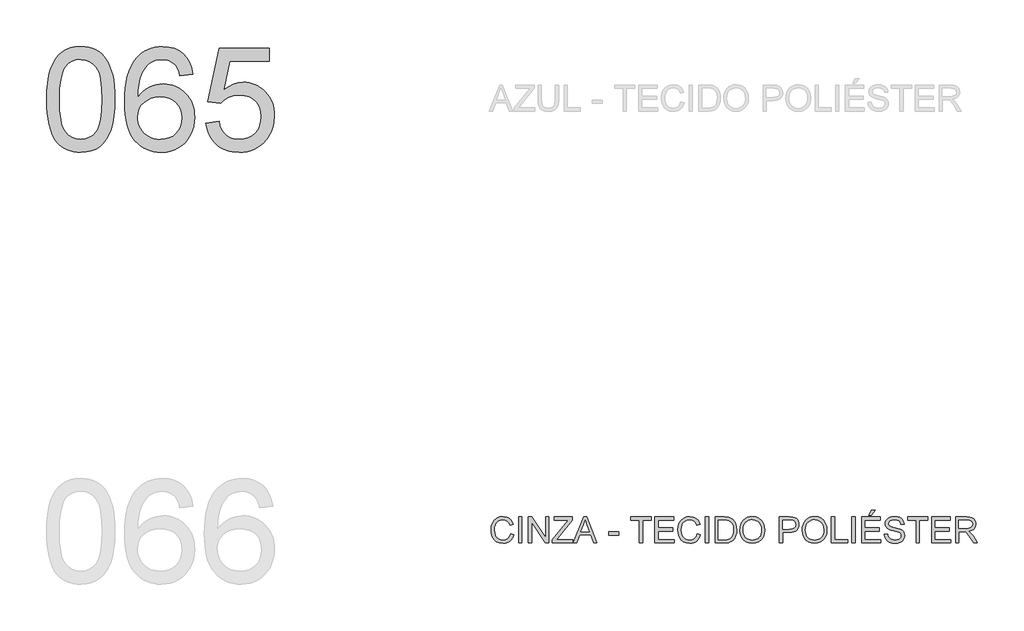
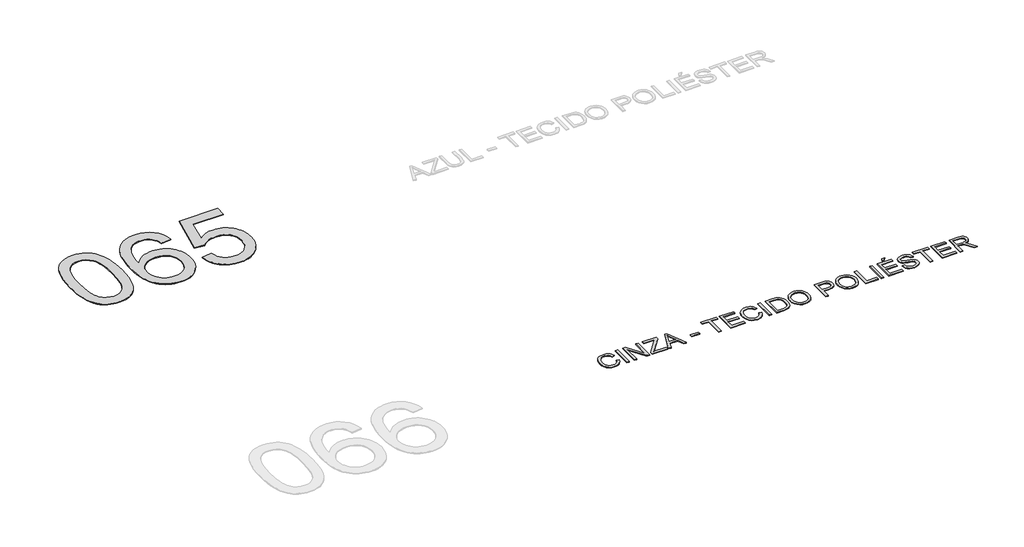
# One storey, part 11 of 35: 2 proxies.
"""IFC4 building model written with IfcOpenShell, lengths in millimetres."""

from ifc_helpers import new_model, si_unit, origin, origin_with_axes, place, context, project, spatial, polyline, outline, extrude, element, save

model = new_model("IFC4")

# Units and contexts
model_context = context("Model", 3, world=origin())
ifc_project = project(units=[si_unit("LENGTHUNIT", "METRE", prefix="MILLI")], contexts=[model_context])

# Site, building, storey
site = spatial("IfcSite", under=ifc_project)
building = spatial("IfcBuilding", under=site)
storey = spatial("IfcBuildingStorey", under=building, Name="Marelli - Linha YOU - Planta Baixa", Elevation=0.0)

# Proxies
placement = place(None, origin())
element("IfcBuildingElementProxy", 1, Name="1200mm Arial", ObjectType="1200mm Arial", at=placement, inside=storey, context=model_context, shape_type="SweptSolid", body=[
    extrude(outline(polyline([(-25275.30917, -84895.792664), (-25272.540858, -84794.4319773), (-25264.2359219, -84702.8385576), (-25250.3943618, -84621.0124048), (-25231.0161777, -84548.953519), (-25206.1841431, -84486.073289), (-25175.9810313, -84431.7831035), (-25140.4068423, -84386.0829627), (-25099.4615763, -84348.9728664), (-25053.0072773, -84320.2596767), (-25000.9059898, -84299.7502555), (-24943.1577136, -84287.4446027), (-24879.7624488, -84283.3427185), (-24832.1217304, -84285.7707396), (-24786.9090332, -84293.0548031), (-24744.1243571, -84305.194909), (-24703.7677023, -84322.1910572), (-24666.8139558, -84343.7581391), (-24634.2380052, -84369.6110463), (-24606.0398502, -84399.7497788), (-24582.2194911, -84434.1743365), (-24561.5813111, -84472.7467637), (-24542.929694, -84515.3291046), (-24511.586148, -84612.5235278), (-24499.611589, -84669.6831928), (-24491.0583327, -84735.9479371), (-24485.9263788, -84811.3177609), (-24484.2157275, -84895.792664), (-24486.9564484, -84996.5095573), (-24495.178611, -85087.6431245), (-24508.8822153, -85169.1933658), (-24528.0672614, -85241.1602811), (-24552.706158, -85304.0681023), (-24582.771314, -85358.4410612), (-24618.2627295, -85404.2791578), (-24659.1804044, -85441.5823921), (-24705.6898857, -85470.4887199), (-24757.9567202, -85491.1360968), (-24815.9809078, -85503.524523), (-24879.7624488, -85507.6539984), (-24922.4367602, -85505.8605737), (-24962.7566269, -85500.4802995), (-25000.7220488, -85491.5131759), (-25036.3330259, -85478.9592028), (-25069.5895583, -85462.8183803), (-25100.4916459, -85443.0907083), (-25129.0392887, -85419.7761868), (-25155.2324867, -85392.8748159), (-25183.3754594, -85350.2786794), (-25207.7660357, -85302.0999336), (-25228.4042156, -85248.3385785), (-25245.2899992, -85188.9946142), (-25258.4233864, -85124.0680406), (-25267.8043773, -85053.5588577), (-25273.4329718, -84977.4670655), (-25275.30917, -84895.792664)]), holes=[polyline([(-25124.6247047, -84895.4983584), (-25120.2101208, -85026.4919399), (-25106.966369, -85132.5247279), (-25097.0335551, -85176.1808245), (-25084.8934493, -85213.5967226), (-25070.5460515, -85244.7724225), (-25053.9913617, -85269.7079239), (-25016.614551, -85307.884878), (-24975.1174619, -85335.1541309), (-24929.5000945, -85351.5156826), (-24879.7624488, -85356.9695332), (-24830.024803, -85351.4972885), (-24784.4074356, -85335.0805545), (-24742.9103465, -85307.7193311), (-24705.5335358, -85269.4136183), (-24688.9788461, -85244.418336), (-24674.6314482, -85213.2104465), (-24662.4913424, -85175.7899498), (-24652.5585285, -85132.1568459), (-24639.3147767, -85026.2528166), (-24634.9001928, -84895.4983584), (-24639.1676239, -84767.9720648), (-24651.9699173, -84663.8062779), (-24661.5716374, -84620.4835744), (-24673.3070731, -84583.0009976), (-24687.1762243, -84551.3585475), (-24703.1790911, -84525.5562241), (-24739.9305024, -84485.5122689), (-24781.905838, -84456.9094438), (-24829.105098, -84439.7477487), (-24881.5282823, -84434.0271837), (-24931.0084107, -84439.067167), (-24975.8532259, -84454.187117), (-25016.062728, -84479.3870337), (-25051.6369169, -84514.666917), (-25068.7434297, -84543.2145599), (-25083.5690741, -84577.2068562), (-25096.1138501, -84616.6438061), (-25106.3777578, -84661.5254095), (-25120.062968, -84767.6225769), (-25124.6247047, -84895.4983584)])]), origin_with_axes(), (0.0, 0.0, 1.0), 10.0),
    extrude(outline(polyline([(-23580.1089362, -84603.5472071), (-23730.7934014, -84622.3827652), (-23741.8666495, -84582.0812927), (-23755.0736131, -84547.7027202), (-23770.4142923, -84519.2470479), (-23787.8886871, -84496.7142757), (-23820.2806967, -84469.2886729), (-23856.2411618, -84449.6989567), (-23895.7700822, -84437.9451269), (-23938.8674579, -84434.0271837), (-23974.4048586, -84436.3080521), (-24008.9121898, -84443.1506572), (-24042.3894513, -84454.554999), (-24074.8366433, -84470.5210776), (-24104.4419469, -84496.6315022), (-24131.4536824, -84528.1681863), (-24155.8718498, -84565.1311297), (-24177.6964492, -84607.5203326), (-24195.7686522, -84658.1316981), (-24208.9296306, -84719.7611293), (-24217.1793843, -84792.4086263), (-24220.5179134, -84876.0741891), (-24191.7955266, -84838.2099347), (-24160.0749016, -84805.5512106), (-24125.3560383, -84778.0980167), (-24087.6389367, -84755.8503531), (-24047.9352724, -84738.6610669), (-24007.2567208, -84726.3830053), (-23965.6032819, -84719.0161683), (-23922.9749557, -84716.560556), (-23886.0763916, -84718.2390176), (-23850.575779, -84723.2744024), (-23816.4731181, -84731.6667104), (-23783.7684087, -84743.4159416), (-23752.4616509, -84758.5220961), (-23722.5528447, -84776.9851737), (-23694.0419901, -84798.8051745), (-23666.9290871, -84823.9820986), (-23642.1660303, -84851.81697), (-23620.7047144, -84881.6108131), (-23602.5451394, -84913.3636278), (-23587.6873053, -84947.0754142), (-23576.1312121, -84982.7461721), (-23567.8768599, -85020.3759017), (-23562.9242485, -85059.9646029), (-23561.273378, -85101.5122757), (-23564.3819809, -85156.4462547), (-23573.7077895, -85209.4120649), (-23589.2508038, -85260.4097065), (-23611.0110238, -85309.4391794), (-23638.2158973, -85354.6702707), (-23670.0928722, -85394.2727675), (-23706.6419484, -85428.2466698), (-23747.863126, -85456.5919775), (-23792.8734881, -85478.9316116), (-23840.790118, -85494.8884932), (-23891.6130156, -85504.4626221), (-23945.342181, -85507.6539984), (-23991.3435252, -85505.5386769), (-24035.1697672, -85499.1927125), (-24076.8209068, -85488.6161052), (-24116.2969442, -85473.8088549), (-24153.5978792, -85454.7709616), (-24188.723712, -85431.5024254), (-24221.6744424, -85404.0032463), (-24252.4500706, -85372.2734242), (-24280.2826428, -85335.6875598), (-24304.4042053, -85293.6202536), (-24324.8147583, -85246.0715057), (-24341.5143016, -85193.0413161), (-24354.5028353, -85134.5296848), (-24363.7803594, -85070.5366118), (-24369.3468738, -85001.062097), (-24371.2023786, -84926.1061404), (-24369.1422394, -84842.1784618), (-24362.9618219, -84764.1828803), (-24352.6611261, -84692.1193959), (-24338.2401519, -84625.9880088), (-24319.6988993, -84565.7887188), (-24297.0373684, -84511.521526), (-24270.2555591, -84463.1864303), (-24239.3534716, -84420.7834319), (-24209.3388993, -84388.5707647), (-24176.8319265, -84360.6531198), (-24141.8325532, -84337.0304971), (-24104.3407793, -84317.7028968), (-24064.356605, -84302.6703188), (-24021.8800301, -84291.9327631), (-23976.9110547, -84285.4902296), (-23929.4496788, -84283.3427185), (-23860.0487404, -84288.6586133), (-23797.2328897, -84304.6062978), (-23741.0021268, -84331.1857719), (-23691.3564515, -84368.3970358), (-23649.6386333, -84414.9892904), (-23617.1914413, -84469.7117372), (-23594.0148756, -84532.5643761), (-23580.1089362, -84603.5472071)]), holes=[polyline([(-24220.5179134, -85099.157831), (-24218.3382126, -85132.9202011), (-24211.7991101, -85165.9284131), (-24200.900606, -85198.182467), (-24185.6427003, -85229.6823629), (-24166.7703539, -85258.9473756), (-24145.028528, -85284.4967801), (-24120.4172225, -85306.3305766), (-24092.9364375, -85324.4487648), (-24062.7609168, -85338.676601), (-24030.0654045, -85348.8393411), (-23994.8499005, -85354.9369852), (-23957.1144049, -85356.9695332), (-23904.7372058, -85352.7572843), (-23857.6759016, -85340.1205378), (-23815.9304922, -85319.0592936), (-23779.5009776, -85289.5735517), (-23749.9508563, -85252.8589286), (-23728.8436268, -85210.1110407), (-23716.1792892, -85161.3298882), (-23711.9578433, -85106.5154709), (-23716.1241069, -85053.8439662), (-23728.6228976, -85007.0769676), (-23749.4542156, -84966.214475), (-23778.6180608, -84931.2564884), (-23815.15794, -84903.2514715), (-23858.1173599, -84883.247888), (-23907.4963208, -84871.2457379), (-23963.2948224, -84867.2450212), (-24014.9730456, -84871.2457379), (-24062.5861729, -84883.247888), (-24106.134204, -84903.2514715), (-24145.6171392, -84931.2564884), (-24178.3862279, -84965.7546225), (-24201.7927198, -85005.2375576), (-24215.836615, -85049.7052938), (-24220.5179134, -85099.157831)])]), origin_with_axes(), (0.0, 0.0, 1.0), 10.0),
    extrude(outline(polyline([(-23429.424471, -85168.6139517), (-23278.7400057, -85149.7783935), (-23267.4828167, -85198.2192552), (-23251.0752797, -85240.2405761), (-23229.5173948, -85275.8423562), (-23202.8091619, -85305.0245955), (-23171.0057635, -85327.7505057), (-23134.1623816, -85343.9832988), (-23092.2790165, -85353.7229746), (-23045.355668, -85356.9695332), (-22987.9660768, -85352.4537817), (-22937.3455142, -85338.9065272), (-22893.4939804, -85316.3277698), (-22856.4114753, -85284.7175093), (-22826.9257334, -85245.6392444), (-22805.8644891, -85200.6564734), (-22793.2277426, -85149.7691965), (-22789.0154938, -85092.9774135), (-22792.9610282, -85039.3034304), (-22804.7976314, -84991.5891356), (-22824.5253034, -84949.8345291), (-22852.1440441, -84914.039611), (-22887.7458242, -84885.3264213), (-22931.4226141, -84864.817), (-22983.1744138, -84852.5113473), (-23043.0012232, -84848.4094631), (-23081.2885419, -84850.0465379), (-23116.0993757, -84854.9577626), (-23147.4337246, -84863.143137), (-23175.2915887, -84874.6026611), (-23222.5644251, -84904.6954083), (-23259.9044476, -84942.5872538), (-23410.5889128, -84923.7516957), (-23278.7400057, -84302.1782766), (-22694.837703, -84302.1782766), (-22694.837703, -84452.8627418), (-23156.8974889, -84452.8627418), (-23221.3504145, -84784.8394543), (-23168.1730721, -84746.7268796), (-23113.7081427, -84719.503612), (-23057.9556263, -84703.1696514), (-23000.915523, -84697.7249978), (-22963.4766322, -84699.4126565), (-22927.532262, -84704.4756324), (-22893.0824124, -84712.9139257), (-22860.1270834, -84724.7275363), (-22828.6662751, -84739.9164642), (-22798.6999873, -84758.4807093), (-22770.2282201, -84780.4202718), (-22743.2509736, -84805.7351516), (-22718.6603615, -84833.7033803), (-22697.3484976, -84863.6029895), (-22679.3153821, -84895.4339791), (-22664.5610148, -84929.1963492), (-22653.0853958, -84964.8900998), (-22644.8885251, -85002.5152308), (-22639.9704027, -85042.0717424), (-22638.3310285, -85083.5596344), (-22644.2355346, -85161.6241938), (-22651.6161671, -85198.6147284), (-22661.9490526, -85234.2440996), (-22675.2341912, -85268.5123075), (-22691.4715827, -85301.4193519), (-22710.6612273, -85332.965233), (-22732.8031249, -85363.1499507), (-22762.8039016, -85397.0180869), (-22795.4166405, -85426.3704716), (-22830.6413415, -85451.2071048), (-22868.4780047, -85471.5279865), (-22908.9266301, -85487.3331167), (-22951.9872176, -85498.6224954), (-22997.6597673, -85505.3961227), (-23045.9442792, -85507.6539984), (-23123.7053359, -85501.8506599), (-23159.7646692, -85494.5964869), (-23193.9432059, -85484.4406445), (-23226.2409458, -85471.383133), (-23256.657889, -85455.4239522), (-23285.1940355, -85436.5631021), (-23311.8493853, -85414.8005828), (-23336.1870786, -85390.6422321), (-23357.7702554, -85364.5938875), (-23376.5989157, -85336.6555493), (-23392.6730597, -85306.8272173), (-23405.9926871, -85275.1088915), (-23416.5577982, -85241.500572), (-23429.424471, -85168.6139517)])), origin_with_axes(), (0.0, 0.0, 1.0), 10.0),
])
element("IfcBuildingElementProxy", 2, Name="300mm Arial", ObjectType="300mm Arial", at=placement, inside=storey, context=model_context, shape_type="SweptSolid", body=[
    extrude(outline(polyline([(-19903.7272413, -89923.4390831), (-19866.056125, -89933.1511677), (-19873.5103339, -89956.5783531), (-19883.4385492, -89977.0486868), (-19895.840771, -89994.5621691), (-19910.7169992, -90009.1187997), (-19927.7315414, -90020.5622291), (-19946.5487055, -90028.7361071), (-19967.1684913, -90033.640434), (-19989.5908989, -90035.2752096), (-20033.2860829, -90030.3271968), (-20067.9865521, -90015.4831583), (-20094.5844204, -89991.2581289), (-20113.9718015, -89958.1671434), (-20125.8084047, -89919.2636224), (-20129.7539391, -89877.6009865), (-20125.2933699, -89833.6574822), (-20111.9116623, -89795.7104543), (-20090.3077922, -89764.9647166), (-20061.1807352, -89742.6250824), (-20026.6366159, -89729.0226457), (-19988.7815585, -89724.4885001), (-19947.4776075, -89730.3562179), (-19929.5088713, -89737.6908652), (-19913.3289613, -89747.9593714), (-19899.204592, -89760.8904235), (-19887.4024777, -89776.2127086), (-19870.7650145, -89814.0309777), (-19908.4361308, -89823.0072984), (-19921.4959416, -89795.5357104), (-19939.3382184, -89776.6909552), (-19962.1836903, -89765.7924511), (-19990.2530865, -89762.1596164), (-20022.608308, -89766.1879242), (-20049.1877822, -89778.2728478), (-20069.3569125, -89797.1451941), (-20082.4811027, -89821.5357704), (-20089.6823928, -89849.1085259), (-20092.0828228, -89877.5274101), (-20089.2409344, -89912.3290468), (-20080.7152691, -89942.421794), (-20066.1839303, -89966.6560205), (-20045.3250212, -89983.8820949), (-20020.3182426, -89994.1735937), (-19993.3432953, -89997.6040933), (-19961.8985818, -89992.931992), (-19935.6961866, -89978.9156879), (-19915.9133324, -89955.7023341), (-19903.7272413, -89923.4390831)])), origin_with_axes(), (0.0, 0.0, 1.0), 10.0),
    extrude(outline(polyline([(-19809.5494505, -90030.5663201), (-19809.5494505, -89729.1973896), (-19771.8783342, -89729.1973896), (-19771.8783342, -90030.5663201), (-19809.5494505, -90030.5663201)])), origin_with_axes(), (0.0, 0.0, 1.0), 10.0),
    extrude(outline(polyline([(-19696.5361016, -90030.5663201), (-19696.5361016, -89729.1973896), (-19656.2162349, -89729.1973896), (-19498.762741, -89967.9528045), (-19498.762741, -89729.1973896), (-19461.0916247, -89729.1973896), (-19461.0916247, -90030.5663201), (-19501.4114913, -90030.5663201), (-19658.8649853, -89791.7373288), (-19658.8649853, -90030.5663201), (-19696.5361016, -90030.5663201)])), origin_with_axes(), (0.0, 0.0, 1.0), 10.0),
    extrude(outline(polyline([(-19418.7116188, -90030.5663201), (-19418.7116188, -89991.4972522), (-19264.5690628, -89802.7737887), (-19235.285656, -89766.8685059), (-19399.8760607, -89766.8685059), (-19399.8760607, -89729.1973896), (-19187.9760314, -89729.1973896), (-19187.9760314, -89766.8685059), (-19356.6867144, -89973.397458), (-19372.5792166, -89992.8952038), (-19183.2671419, -89992.8952038), (-19183.2671419, -90030.5663201), (-19418.7116188, -90030.5663201)])), origin_with_axes(), (0.0, 0.0, 1.0), 10.0),
    extrude(outline(polyline([(-19175.9830784, -90030.5663201), (-19055.685666, -89729.1973896), (-19023.606356, -89729.1973896), (-18903.3089436, -90030.5663201), (-18943.1137755, -90030.5663201), (-18977.6211066, -89936.3885293), (-19101.7444918, -89936.3885293), (-19136.1782465, -90030.5663201), (-19175.9830784, -90030.5663201)]), holes=[polyline([(-19087.9121288, -89898.717413), (-18991.3798932, -89898.717413), (-19018.5295845, -89824.6259792), (-19039.646011, -89766.8685059), (-19058.4079927, -89818.1512561), (-19087.9121288, -89898.717413)])]), origin_with_axes(), (0.0, 0.0, 1.0), 10.0),
    extrude(outline(polyline([(-18768.8848625, -89941.0974188), (-18768.8848625, -89903.4263025), (-18651.1626241, -89903.4263025), (-18651.1626241, -89941.0974188), (-18768.8848625, -89941.0974188)])), origin_with_axes(), (0.0, 0.0, 1.0), 10.0),
    extrude(outline(polyline([(-18411.0092576, -90030.5663201), (-18411.0092576, -89766.8685059), (-18509.8959379, -89766.8685059), (-18509.8959379, -89729.1973896), (-18274.451461, -89729.1973896), (-18274.451461, -89766.8685059), (-18373.3381413, -89766.8685059), (-18373.3381413, -90030.5663201), (-18411.0092576, -90030.5663201)])), origin_with_axes(), (0.0, 0.0, 1.0), 10.0),
    extrude(outline(polyline([(-18232.0714552, -90030.5663201), (-18232.0714552, -89729.1973896), (-18015.4625364, -89729.1973896), (-18015.4625364, -89766.8685059), (-18194.4003389, -89766.8685059), (-18194.4003389, -89856.3374072), (-18024.8803155, -89856.3374072), (-18024.8803155, -89894.0085235), (-18194.4003389, -89894.0085235), (-18194.4003389, -89992.8952038), (-18010.7536469, -89992.8952038), (-18010.7536469, -90030.5663201), (-18232.0714552, -90030.5663201)])), origin_with_axes(), (0.0, 0.0, 1.0), 10.0),
    extrude(outline(polyline([(-17742.3469432, -89923.4390831), (-17704.6758269, -89933.1511677), (-17712.1300358, -89956.5783531), (-17722.0582512, -89977.0486868), (-17734.4604729, -89994.5621691), (-17749.3367011, -90009.1187997), (-17766.3512434, -90020.5622291), (-17785.1684074, -90028.7361071), (-17805.7881933, -90033.640434), (-17828.2106009, -90035.2752096), (-17871.9057849, -90030.3271968), (-17906.606254, -90015.4831583), (-17933.2041223, -89991.2581289), (-17952.5915034, -89958.1671434), (-17964.4281066, -89919.2636224), (-17968.373641, -89877.6009865), (-17963.9130718, -89833.6574822), (-17950.5313643, -89795.7104543), (-17928.9274941, -89764.9647166), (-17899.8004371, -89742.6250824), (-17865.2563178, -89729.0226457), (-17827.4012605, -89724.4885001), (-17786.0973095, -89730.3562179), (-17768.1285733, -89737.6908652), (-17751.9486633, -89747.9593714), (-17737.8242939, -89760.8904235), (-17726.0221797, -89776.2127086), (-17709.3847164, -89814.0309777), (-17747.0558327, -89823.0072984), (-17760.1156436, -89795.5357104), (-17777.9579203, -89776.6909552), (-17800.8033922, -89765.7924511), (-17828.8727885, -89762.1596164), (-17861.2280099, -89766.1879242), (-17887.8074841, -89778.2728478), (-17907.9766145, -89797.1451941), (-17921.1008047, -89821.5357704), (-17928.3020947, -89849.1085259), (-17930.7025247, -89877.5274101), (-17927.8606363, -89912.3290468), (-17919.3349711, -89942.421794), (-17904.8036323, -89966.6560205), (-17883.9447231, -89983.8820949), (-17858.9379445, -89994.1735937), (-17831.9629972, -89997.6040933), (-17800.5182837, -89992.931992), (-17774.3158886, -89978.9156879), (-17754.5330343, -89955.7023341), (-17742.3469432, -89923.4390831)])), origin_with_axes(), (0.0, 0.0, 1.0), 10.0),
    extrude(outline(polyline([(-17648.1691524, -90030.5663201), (-17648.1691524, -89729.1973896), (-17610.4980361, -89729.1973896), (-17610.4980361, -90030.5663201), (-17648.1691524, -90030.5663201)])), origin_with_axes(), (0.0, 0.0, 1.0), 10.0),
    extrude(outline(polyline([(-17535.1558035, -90030.5663201), (-17535.1558035, -89729.1973896), (-17431.1923517, -89729.1973896), (-17377.408004, -89733.5383972), (-17353.3853097, -89741.9077126), (-17333.1150118, -89755.0962821), (-17312.2744967, -89778.0521186), (-17297.4304582, -89806.5997614), (-17288.5461081, -89840.1873876), (-17285.584658, -89878.2631741), (-17287.5896149, -89910.6091985), (-17293.6044855, -89939.0740679), (-17302.7647472, -89963.3082943), (-17314.2058772, -89982.9623899), (-17327.3760526, -89998.477813), (-17341.7234505, -90010.2960221), (-17358.1953668, -90019.0608107), (-17377.7390978, -90025.4159721), (-17426.1891565, -90030.5663201), (-17535.1558035, -90030.5663201)]), holes=[polyline([(-17497.4846872, -89992.8952038), (-17430.8244697, -89992.8952038), (-17403.2517141, -89991.5340404), (-17382.3376227, -89987.4505502), (-17366.5554851, -89980.8838566), (-17354.3785911, -89972.0730828), (-17341.2911891, -89955.7667134), (-17331.4595428, -89934.6594839), (-17325.3067164, -89908.6594239), (-17323.2557743, -89877.6745629), (-17327.2748851, -89836.6189322), (-17339.3322175, -89806.3054558), (-17357.1469031, -89785.4833349), (-17378.4380736, -89772.9017706), (-17400.1063231, -89768.3768221), (-17431.8545393, -89766.8685059), (-17497.4846872, -89766.8685059), (-17497.4846872, -89992.8952038)])]), origin_with_axes(), (0.0, 0.0, 1.0), 10.0),
    extrude(outline(polyline([(-17247.9135417, -89883.8549804), (-17245.4027471, -89848.5061192), (-17237.8703632, -89817.213157), (-17225.3163901, -89789.9760937), (-17207.7408278, -89766.7949295), (-17186.1967385, -89748.2858666), (-17161.7371843, -89735.0651074), (-17134.3621653, -89727.1326519), (-17104.0716816, -89724.4885001), (-17064.5427612, -89729.454907), (-17029.097331, -89744.3541278), (-16999.6667713, -89768.1376988), (-16978.1824628, -89799.7571563), (-16965.0490756, -89837.68579), (-16960.6712798, -89880.3968896), (-16965.2790018, -89923.6782064), (-16979.1021678, -89962.140269), (-17001.3774226, -89993.8149088), (-17031.3414111, -90016.733957), (-17066.4833387, -90030.6398965), (-17104.2924108, -90035.2752096), (-17144.4283364, -90030.1524528), (-17180.0761018, -90014.7841825), (-17209.433085, -89990.5591531), (-17230.6966643, -89958.8661192), (-17243.6093223, -89922.3998164), (-17247.9135417, -89883.8549804)]), holes=[polyline([(-17210.2424254, -89884.2228624), (-17208.3593294, -89909.1974513), (-17202.7100415, -89931.3669401), (-17193.2945617, -89950.7313286), (-17180.11289, -89967.2906169), (-17164.0893298, -89980.5527628), (-17146.1481848, -89990.0257242), (-17126.2894548, -89995.709501), (-17104.51314, -89997.6040933), (-17082.3643446, -89995.6911069), (-17062.2710899, -89989.9521478), (-17044.2333758, -89980.3872159), (-17028.2512024, -89966.9963113), (-17015.1660996, -89950.0875351), (-17005.8195977, -89929.9689885), (-17000.2116965, -89906.6406715), (-16998.3423962, -89880.102584), (-17001.5429695, -89846.7540812), (-17011.1446896, -89817.9305269), (-17026.899236, -89794.358488), (-17048.5582885, -89776.7645316), (-17074.6871072, -89765.8108452), (-17103.8509524, -89762.1596164), (-17124.8708099, -89763.9185522), (-17144.3731541, -89769.1953595), (-17162.3579852, -89777.9900385), (-17178.825303, -89790.302589), (-17192.570294, -89806.7262208), (-17202.3881448, -89827.8541437), (-17208.2788552, -89853.6863575), (-17210.2424254, -89884.2228624)])]), origin_with_axes(), (0.0, 0.0, 1.0), 10.0),
    extrude(outline(polyline([(-16791.1512565, -90030.5663201), (-16791.1512565, -89729.1973896), (-16679.4622827, -89729.1973896), (-16634.4335265, -89732.0668692), (-16614.3563666, -89737.4287493), (-16597.829268, -89746.1567496), (-16584.5211368, -89758.6463433), (-16574.1008793, -89775.2930036), (-16567.3686388, -89794.9287051), (-16565.1245586, -89816.3854225), (-16566.6397726, -89834.8852883), (-16571.1854145, -89851.9044291), (-16578.7614843, -89867.4428449), (-16589.3679821, -89881.5005356), (-16603.9292113, -89893.1531978), (-16623.3694755, -89901.476528), (-16647.6887747, -89906.470526), (-16676.8871088, -89908.1351921), (-16753.4801402, -89908.1351921), (-16753.4801402, -90030.5663201), (-16791.1512565, -90030.5663201)]), holes=[polyline([(-16753.4801402, -89870.4640758), (-16674.6798168, -89870.4640758), (-16641.2761316, -89867.005985), (-16619.2032119, -89856.6317127), (-16606.8975592, -89839.9850525), (-16602.7956749, -89817.7097977), (-16605.2144991, -89800.7872259), (-16612.4709714, -89786.5134045), (-16623.6637811, -89775.7712502), (-16637.8916173, -89769.4436799), (-16675.5627336, -89766.8685059), (-16753.4801402, -89766.8685059), (-16753.4801402, -89870.4640758)])]), origin_with_axes(), (0.0, 0.0, 1.0), 10.0),
    extrude(outline(polyline([(-16527.4534423, -89883.8549804), (-16524.9426477, -89848.5061192), (-16517.4102639, -89817.213157), (-16504.8562908, -89789.9760937), (-16487.2807285, -89766.7949295), (-16465.7366391, -89748.2858666), (-16441.277085, -89735.0651074), (-16413.902066, -89727.1326519), (-16383.6115822, -89724.4885001), (-16344.0826618, -89729.454907), (-16308.6372316, -89744.3541278), (-16279.206672, -89768.1376988), (-16257.7223635, -89799.7571563), (-16244.5889762, -89837.68579), (-16240.2111805, -89880.3968896), (-16244.8189025, -89923.6782064), (-16258.6420685, -89962.140269), (-16280.9173233, -89993.8149088), (-16310.8813118, -90016.733957), (-16346.0232394, -90030.6398965), (-16383.8323114, -90035.2752096), (-16423.9682371, -90030.1524528), (-16459.6160024, -90014.7841825), (-16488.9729856, -89990.5591531), (-16510.236565, -89958.8661192), (-16523.149223, -89922.3998164), (-16527.4534423, -89883.8549804)]), holes=[polyline([(-16489.782326, -89884.2228624), (-16487.8992301, -89909.1974513), (-16482.2499422, -89931.3669401), (-16472.8344624, -89950.7313286), (-16459.6527906, -89967.2906169), (-16443.6292305, -89980.5527628), (-16425.6880854, -89990.0257242), (-16405.8293555, -89995.709501), (-16384.0530406, -89997.6040933), (-16361.9042452, -89995.6911069), (-16341.8109905, -89989.9521478), (-16323.7732764, -89980.3872159), (-16307.791103, -89966.9963113), (-16294.7060003, -89950.0875351), (-16285.3594984, -89929.9689885), (-16279.7515972, -89906.6406715), (-16277.8822968, -89880.102584), (-16281.0828702, -89846.7540812), (-16290.6845902, -89817.9305269), (-16306.4391367, -89794.358488), (-16328.0981891, -89776.7645316), (-16354.2270079, -89765.8108452), (-16383.390853, -89762.1596164), (-16404.4107105, -89763.9185522), (-16423.9130548, -89769.1953595), (-16441.8978858, -89777.9900385), (-16458.3652036, -89790.302589), (-16472.1101947, -89806.7262208), (-16481.9280454, -89827.8541437), (-16487.8187559, -89853.6863575), (-16489.782326, -89884.2228624)])]), origin_with_axes(), (0.0, 0.0, 1.0), 10.0),
    extrude(outline(polyline([(-16188.4133956, -90030.5663201), (-16188.4133956, -89729.1973896), (-16150.7422793, -89729.1973896), (-16150.7422793, -89992.8952038), (-16000.057814, -89992.8952038), (-16000.057814, -90030.5663201), (-16188.4133956, -90030.5663201)])), origin_with_axes(), (0.0, 0.0, 1.0), 10.0),
    extrude(outline(polyline([(-15952.9689187, -90030.5663201), (-15952.9689187, -89729.1973896), (-15915.2978024, -89729.1973896), (-15915.2978024, -90030.5663201), (-15952.9689187, -90030.5663201)])), origin_with_axes(), (0.0, 0.0, 1.0), 10.0),
    extrude(outline(polyline([(-15839.9555697, -90030.5663201), (-15839.9555697, -89729.1973896), (-15623.346651, -89729.1973896), (-15623.346651, -89766.8685059), (-15802.2844534, -89766.8685059), (-15802.2844534, -89856.3374072), (-15632.7644301, -89856.3374072), (-15632.7644301, -89894.0085235), (-15802.2844534, -89894.0085235), (-15802.2844534, -89992.8952038), (-15618.6377614, -89992.8952038), (-15618.6377614, -90030.5663201), (-15839.9555697, -90030.5663201)])), origin_with_axes(), (0.0, 0.0, 1.0), 10.0),
    extrude(outline(polyline([(-15755.1955581, -89710.3618315), (-15726.9422208, -89653.855157), (-15679.8533254, -89653.855157), (-15726.9422208, -89710.3618315), (-15755.1955581, -89710.3618315)])), origin_with_axes(), (0.0, 0.0, 1.0), 10.0),
    extrude(outline(polyline([(-15576.2577556, -89926.9707502), (-15538.5866393, -89926.9707502), (-15534.2640259, -89947.8756446), (-15526.4465335, -89964.6786547), (-15514.2512453, -89978.0143771), (-15496.7952446, -89988.517408), (-15475.4580889, -89995.332422), (-15451.6193356, -89997.6040933), (-15430.6316678, -89995.884245), (-15412.2559622, -89990.7247), (-15397.3659384, -89982.5577197), (-15386.8353163, -89971.8155654), (-15380.5721253, -89959.4823216), (-15378.484395, -89946.5420724), (-15380.0478935, -89933.932917), (-15384.7383889, -89923.0344129), (-15394.2665326, -89913.7361955), (-15410.3429758, -89905.9279001), (-15465.1941813, -89891.5437141), (-15501.2006315, -89882.0247675), (-15524.2392415, -89872.9656733), (-15542.9920262, -89860.2921386), (-15556.2817633, -89844.9330653), (-15564.2004232, -89827.2195472), (-15566.8399765, -89807.4826782), (-15563.5750238, -89785.4189555), (-15553.7801657, -89764.845155), (-15537.7129196, -89747.4075484), (-15515.6308028, -89734.7524077), (-15489.124905, -89727.054477), (-15459.7863159, -89724.4885001), (-15428.0013115, -89727.1740386), (-15400.1894327, -89735.2306543), (-15377.3439608, -89748.4928003), (-15360.4581772, -89766.7949295), (-15349.7712053, -89788.9966079), (-15345.5221682, -89813.9574013), (-15383.1932845, -89813.9574013), (-15390.109466, -89791.4798114), (-15404.5304403, -89775.2562154), (-15427.0632125, -89765.4337661), (-15458.3147879, -89762.1596164), (-15490.3021274, -89765.3969779), (-15512.2462884, -89775.1090626), (-15524.9382173, -89789.4012781), (-15529.1688602, -89806.3790322), (-15526.170622, -89820.8551887), (-15517.1759072, -89832.4986539), (-15495.9123279, -89842.9097143), (-15455.6660376, -89853.541504), (-15414.1321603, -89863.6398648), (-15389.0058201, -89872.4506385), (-15367.5307086, -89886.1174547), (-15352.5487143, -89902.9848441), (-15343.7471376, -89922.868866), (-15340.8132787, -89945.5855792), (-15344.188596, -89968.8081301), (-15354.3145479, -89990.6511236), (-15370.7772672, -90009.4498935), (-15393.1628866, -90023.539774), (-15420.0826516, -90032.3413507), (-15450.1478077, -90035.2752096), (-15487.0555688, -90032.1114244), (-15517.4334246, -90022.620069), (-15541.6308628, -90006.764355), (-15559.9973714, -89984.5074943), (-15571.7879894, -89957.3945912), (-15576.2577556, -89926.9707502)])), origin_with_axes(), (0.0, 0.0, 1.0), 10.0),
    extrude(outline(polyline([(-15208.9643716, -90030.5663201), (-15208.9643716, -89766.8685059), (-15307.8510519, -89766.8685059), (-15307.8510519, -89729.1973896), (-15072.406575, -89729.1973896), (-15072.406575, -89766.8685059), (-15171.2932553, -89766.8685059), (-15171.2932553, -90030.5663201), (-15208.9643716, -90030.5663201)])), origin_with_axes(), (0.0, 0.0, 1.0), 10.0),
    extrude(outline(polyline([(-15030.0265692, -90030.5663201), (-15030.0265692, -89729.1973896), (-14813.4176504, -89729.1973896), (-14813.4176504, -89766.8685059), (-14992.3554529, -89766.8685059), (-14992.3554529, -89856.3374072), (-14822.8354295, -89856.3374072), (-14822.8354295, -89894.0085235), (-14992.3554529, -89894.0085235), (-14992.3554529, -89992.8952038), (-14808.7087609, -89992.8952038), (-14808.7087609, -90030.5663201), (-15030.0265692, -90030.5663201)])), origin_with_axes(), (0.0, 0.0, 1.0), 10.0),
    extrude(outline(polyline([(-14752.2020864, -90030.5663201), (-14752.2020864, -89729.1973896), (-14622.3397421, -89729.1973896), (-14587.4369378, -89731.2299376), (-14562.0438831, -89737.3275817), (-14543.4842364, -89748.5847708), (-14529.0816563, -89766.0959537), (-14519.8386212, -89787.8101885), (-14516.7576095, -89811.6765329), (-14521.8619722, -89841.3646099), (-14537.1750602, -89865.9759154), (-14548.7748394, -89876.0052983), (-14563.1567261, -89884.0205273), (-14600.2668224, -89894.0085235), (-14578.8560903, -89910.1217548), (-14548.3218847, -89948.8965171), (-14498.0692041, -90030.5663201), (-14541.8471616, -90030.5663201), (-14581.0633822, -89968.0999573), (-14609.3902959, -89926.750021), (-14629.2927118, -89907.2154871), (-14647.208565, -89900.0417882), (-14669.0607555, -89898.717413), (-14714.5309701, -89898.717413), (-14714.5309701, -90030.5663201), (-14752.2020864, -90030.5663201)]), holes=[polyline([(-14714.5309701, -89861.0462967), (-14630.2124168, -89861.0462967), (-14605.9965845, -89859.7127245), (-14587.2070116, -89855.7120078), (-14573.0619489, -89848.7774322), (-14562.7796471, -89838.6422832), (-14556.5164561, -89826.3826157), (-14554.4287258, -89813.0744845), (-14558.4110484, -89794.6987789), (-14570.3580162, -89779.8915286), (-14590.9134227, -89770.1242616), (-14620.7210613, -89766.8685059), (-14714.5309701, -89766.8685059), (-14714.5309701, -89861.0462967)])]), origin_with_axes(), (0.0, 0.0, 1.0), 10.0),
])

save(model, "model.ifc")
